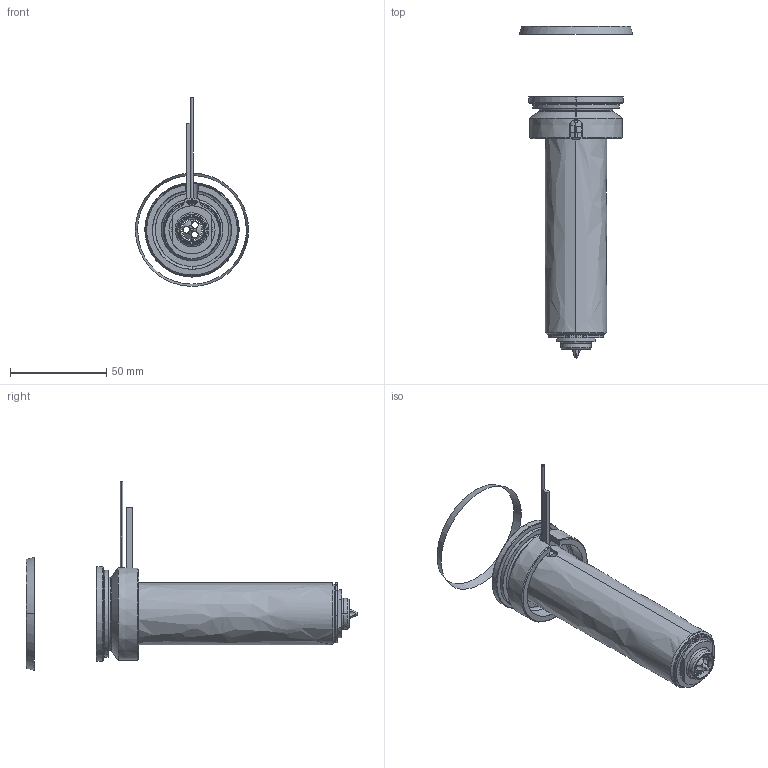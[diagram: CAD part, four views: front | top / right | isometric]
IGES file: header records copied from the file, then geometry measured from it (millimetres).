
Start section: SolidWorks IGES file using analytic representation for surfaces
Global section: file name: C:\Documents and Settings\ws-20\Desktop\TEM\UGEP5003-S-A-0 [Øf-1.36 ØC-12].IGS; native system: SolidWorks 2012; preprocessor: SolidWorks 2012; author: ws-20; date: 120426.100222; units: millimetre
Bounding box: 58.79 x 172.24 x 98.01 mm (x, y, z)
Surface area: 51793.6 mm2 (no closed solid volume)
Topology: 0 solids, 0 shells, 126 faces, 2386 edges, 2386 vertices
Faces by surface type: revolution 81, bspline 45
